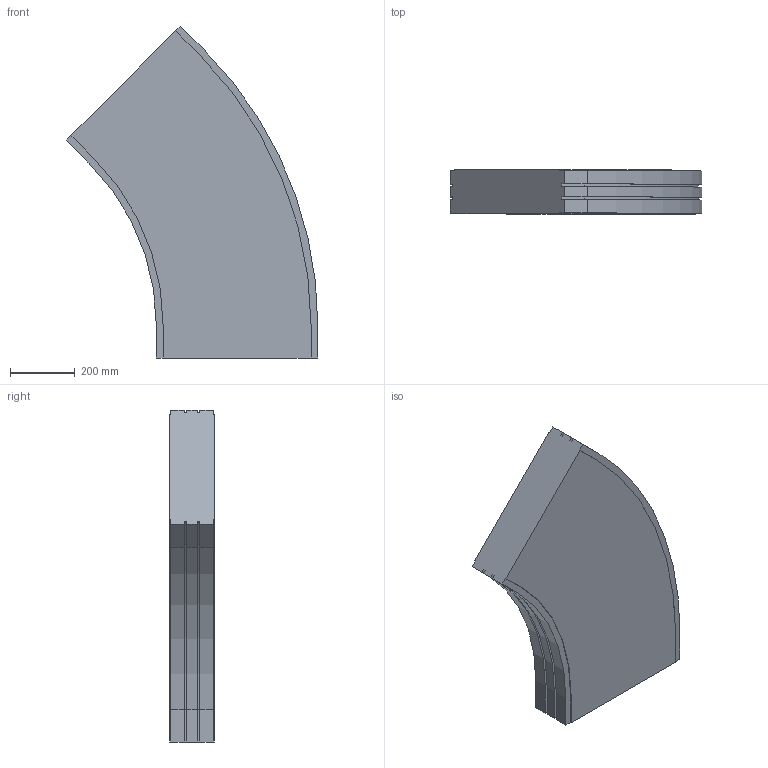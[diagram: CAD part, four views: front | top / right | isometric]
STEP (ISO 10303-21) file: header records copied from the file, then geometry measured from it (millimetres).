
FILE_DESCRIPTION (( 'STEP AP214' ), '1' );
FILE_NAME ('02.150H45.500.N FS-MTC-150 Bocht horizontaal 45°.STEP', '2013-03-29T11:18:27', ( 'Gebruiker' ), ( '' ), 'SwSTEP 2.0', 'SolidWorks 2012', '' );
FILE_SCHEMA (( 'AUTOMOTIVE_DESIGN' ));
Length unit declared in the file: millimetre
Products named in the file (1): 02.150H45.500.N FS-MTC-150 Bocht horizontaal 45°
Bounding box: 777.81 x 136 x 1025.96 mm (x, y, z)
Volume: 64184878.9 mm3; surface area: 1430069.9 mm2
Topology: 1 solids, 1 shells, 58 faces, 168 edges, 112 vertices
Faces by surface type: plane 44, cylinder 14
Entity records: 1934 total; most frequent: CARTESIAN_POINT 339, ORIENTED_EDGE 336, DIRECTION 314, EDGE_CURVE 168, VECTOR 140, LINE 140, VERTEX_POINT 112, AXIS2_PLACEMENT_3D 87
